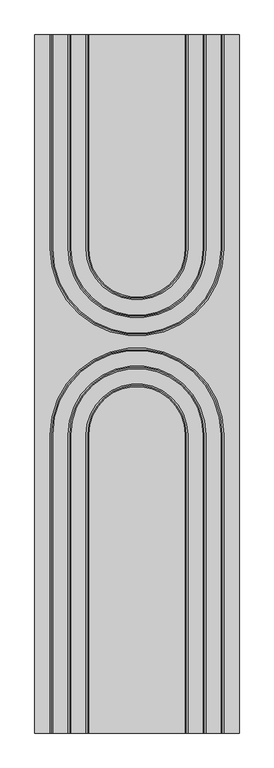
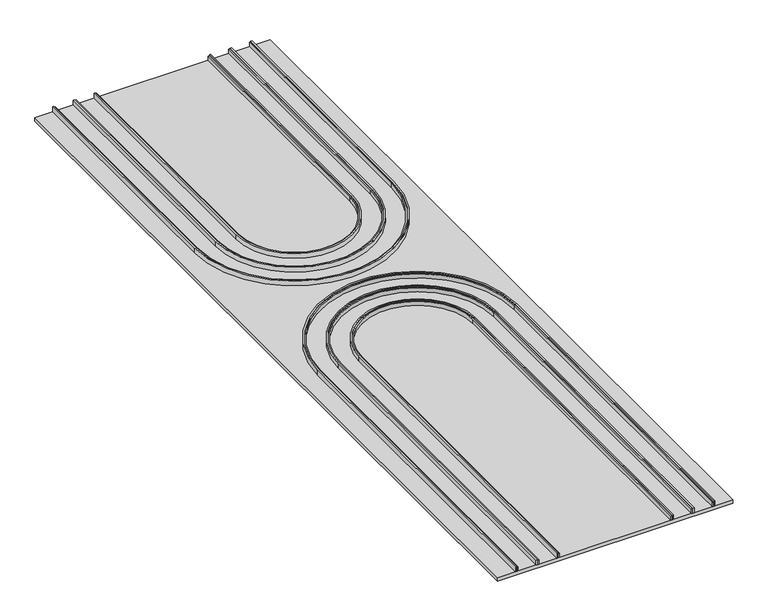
"""IFC4 building model written with IfcOpenShell, lengths in millimetres: proxy geometry, FilzFelt_Arcade : Arcade."""

from ifc_helpers import new_model, si_unit, point, frame, frame_2d, origin, origin_with_axes, place, context, project, spatial, polyline, circle_curve, trimmed, segment, composite_curve, outline, extrude, source, transform, mapped, element, save


def specialty_equipment_f70de239(model_context):
    return source(origin(), model_context, "Body", "SweptSolid", [
        extrude(outline(composite_curve([segment(trimmed(circle_curve(frame_2d((0.0, 1258.65)), 361.95), [point((361.95, 1258.65))], [point((-361.95, 1258.65))], True, "CARTESIAN"), True, "CONTINUOUS"), segment(polyline([(-361.95, 1258.65), (-361.95, 0.0), (-366.95, 0.0), (-366.95, 1258.65)]), True, "CONTINUOUS"), segment(trimmed(circle_curve(frame_2d((0.0, 1258.65)), 366.95), [point((-366.95, 1258.65))], [point((366.95, 1258.65))], False, "CARTESIAN"), True, "CONTINUOUS"), segment(polyline([(366.95, 1258.65), (366.95, 0.0), (361.95, 0.0), (361.95, 1258.65)]), True, "CONTINUOUS")], self_intersect=False)), frame((0.0, 0.0, 13.0), z_axis=(0.0, 0.0, 1.0), x_axis=(1.0, 0.0, 0.0)), (0.0, 0.0, 1.0), 19.0),
        extrude(outline(composite_curve([segment(trimmed(circle_curve(frame_2d((0.0, 1258.65)), 285.75), [point((285.75, 1258.65))], [point((-285.75, 1258.65))], True, "CARTESIAN"), True, "CONTINUOUS"), segment(polyline([(-285.75, 1258.65), (-285.75, 0.0), (-290.75, 0.0), (-290.75, 1258.65)]), True, "CONTINUOUS"), segment(trimmed(circle_curve(frame_2d((0.0, 1258.65)), 290.75), [point((-290.75, 1258.65))], [point((290.75, 1258.65))], False, "CARTESIAN"), True, "CONTINUOUS"), segment(polyline([(290.75, 1258.65), (290.75, 0.0), (285.75, 0.0), (285.75, 1258.65)]), True, "CONTINUOUS")], self_intersect=False)), frame((0.0, 0.0, 13.0), z_axis=(0.0, 0.0, 1.0), x_axis=(1.0, 0.0, 0.0)), (0.0, 0.0, 1.0), 19.0),
        extrude(outline(composite_curve([segment(polyline([(-209.55, 1258.65), (-209.55, 0.0), (-214.55, 0.0), (-214.55, 1258.65)]), True, "CONTINUOUS"), segment(trimmed(circle_curve(frame_2d((0.0, 1258.65)), 214.55), [point((-214.55, 1258.65))], [point((214.55, 1258.65))], False, "CARTESIAN"), True, "CONTINUOUS"), segment(polyline([(214.55, 1258.65), (214.55, 0.0), (209.55, 0.0), (209.55, 1258.65)]), True, "CONTINUOUS"), segment(trimmed(circle_curve(frame_2d((0.0, 1258.65)), 209.55), [point((209.55, 1258.65))], [point((-209.55, 1258.65))], True, "CARTESIAN"), True, "CONTINUOUS")], self_intersect=False)), frame((0.0, 0.0, 13.0), z_axis=(0.0, 0.0, 1.0), x_axis=(1.0, 0.0, 0.0)), (0.0, 0.0, 1.0), 19.0),
        extrude(outline(composite_curve([segment(polyline([(-366.95, 2043.35), (-366.95, 2946.4), (-361.95, 2946.4), (-361.95, 2043.35)]), True, "CONTINUOUS"), segment(trimmed(circle_curve(frame_2d((0.0, 2043.35)), 361.95), [point((-361.95, 2043.35))], [point((361.95, 2043.35))], True, "CARTESIAN"), True, "CONTINUOUS"), segment(polyline([(361.95, 2043.35), (361.95, 2946.4), (366.95, 2946.4), (366.95, 2043.35)]), True, "CONTINUOUS"), segment(trimmed(circle_curve(frame_2d((0.0, 2043.35)), 366.95), [point((366.95, 2043.35))], [point((-366.95, 2043.35))], False, "CARTESIAN"), True, "CONTINUOUS")], self_intersect=False)), frame((0.0, 0.0, 13.0), z_axis=(0.0, 0.0, 1.0), x_axis=(1.0, 0.0, 0.0)), (0.0, 0.0, 1.0), 19.0),
        extrude(outline(composite_curve([segment(polyline([(-290.75, 2043.35), (-290.75, 2946.4), (-285.75, 2946.4), (-285.75, 2043.35)]), True, "CONTINUOUS"), segment(trimmed(circle_curve(frame_2d((0.0, 2043.35)), 285.75), [point((-285.75, 2043.35))], [point((285.75, 2043.35))], True, "CARTESIAN"), True, "CONTINUOUS"), segment(polyline([(285.75, 2043.35), (285.75, 2946.4), (290.75, 2946.4), (290.75, 2043.35)]), True, "CONTINUOUS"), segment(trimmed(circle_curve(frame_2d((0.0, 2043.35)), 290.75), [point((290.75, 2043.35))], [point((-290.75, 2043.35))], False, "CARTESIAN"), True, "CONTINUOUS")], self_intersect=False)), frame((0.0, 0.0, 13.0), z_axis=(0.0, 0.0, 1.0), x_axis=(1.0, 0.0, 0.0)), (0.0, 0.0, 1.0), 19.0),
        extrude(outline(composite_curve([segment(polyline([(-214.55, 2043.35), (-214.55, 2946.4), (-209.55, 2946.4), (-209.55, 2043.35)]), True, "CONTINUOUS"), segment(trimmed(circle_curve(frame_2d((0.0, 2043.35)), 209.55), [point((-209.55, 2043.35))], [point((209.55, 2043.35))], True, "CARTESIAN"), True, "CONTINUOUS"), segment(polyline([(209.55, 2043.35), (209.55, 2946.4), (214.55, 2946.4), (214.55, 2043.35)]), True, "CONTINUOUS"), segment(trimmed(circle_curve(frame_2d((0.0, 2043.35)), 214.55), [point((214.55, 2043.35))], [point((-214.55, 2043.35))], False, "CARTESIAN"), True, "CONTINUOUS")], self_intersect=False)), frame((0.0, 0.0, 13.0), z_axis=(0.0, 0.0, 1.0), x_axis=(1.0, 0.0, 0.0)), (0.0, 0.0, 1.0), 19.0),
        extrude(outline(composite_curve([segment(trimmed(circle_curve(frame_2d((0.0, 1258.65)), 361.95), [point((-361.95, 1258.65))], [point((361.95, 1258.65))], False, "CARTESIAN"), True, "CONTINUOUS"), segment(polyline([(361.95, 1258.65), (361.95, 0.0), (356.95, 0.0), (356.95, 1258.65)]), True, "CONTINUOUS"), segment(trimmed(circle_curve(frame_2d((0.0, 1258.65)), 356.95), [point((356.95, 1258.65))], [point((-356.95, 1258.65))], True, "CARTESIAN"), True, "CONTINUOUS"), segment(polyline([(-356.95, 1258.65), (-356.95, 0.0), (-361.95, 0.0), (-361.95, 1258.65)]), True, "CONTINUOUS")], self_intersect=False)), frame((0.0, 0.0, 13.0), z_axis=(0.0, 0.0, 1.0), x_axis=(1.0, 0.0, 0.0)), (0.0, 0.0, 1.0), 16.0),
        extrude(outline(composite_curve([segment(trimmed(circle_curve(frame_2d((0.0, 1258.65)), 285.75), [point((-285.75, 1258.65))], [point((285.75, 1258.65))], False, "CARTESIAN"), True, "CONTINUOUS"), segment(polyline([(285.75, 1258.65), (285.75, 0.0), (280.75, 0.0), (280.75, 1258.65)]), True, "CONTINUOUS"), segment(trimmed(circle_curve(frame_2d((0.0, 1258.65)), 280.75), [point((280.75, 1258.65))], [point((-280.75, 1258.65))], True, "CARTESIAN"), True, "CONTINUOUS"), segment(polyline([(-280.75, 1258.65), (-280.75, 0.0), (-285.75, 0.0), (-285.75, 1258.65)]), True, "CONTINUOUS")], self_intersect=False)), frame((0.0, 0.0, 13.0), z_axis=(0.0, 0.0, 1.0), x_axis=(1.0, 0.0, 0.0)), (0.0, 0.0, 1.0), 16.0),
        extrude(outline(composite_curve([segment(trimmed(circle_curve(frame_2d((0.0, 1258.65)), 209.55), [point((-209.55, 1258.65))], [point((209.55, 1258.65))], False, "CARTESIAN"), True, "CONTINUOUS"), segment(polyline([(209.55, 1258.65), (209.55, 0.0), (204.55, 0.0), (204.55, 1258.65)]), True, "CONTINUOUS"), segment(trimmed(circle_curve(frame_2d((0.0, 1258.65)), 204.55), [point((204.55, 1258.65))], [point((-204.55, 1258.65))], True, "CARTESIAN"), True, "CONTINUOUS"), segment(polyline([(-204.55, 1258.65), (-204.55, 0.0), (-209.55, 0.0), (-209.55, 1258.65)]), True, "CONTINUOUS")], self_intersect=False)), frame((0.0, 0.0, 13.0), z_axis=(0.0, 0.0, 1.0), x_axis=(1.0, 0.0, 0.0)), (0.0, 0.0, 1.0), 16.0),
        extrude(outline(composite_curve([segment(trimmed(circle_curve(frame_2d((0.0, 2043.35)), 361.95), [point((361.95, 2043.35))], [point((-361.95, 2043.35))], False, "CARTESIAN"), True, "CONTINUOUS"), segment(polyline([(-361.95, 2043.35), (-361.95, 2946.4), (-356.95, 2946.4), (-356.95, 2043.35)]), True, "CONTINUOUS"), segment(trimmed(circle_curve(frame_2d((0.0, 2043.35)), 356.95), [point((-356.95, 2043.35))], [point((356.95, 2043.35))], True, "CARTESIAN"), True, "CONTINUOUS"), segment(polyline([(356.95, 2043.35), (356.95, 2946.4), (361.95, 2946.4), (361.95, 2043.35)]), True, "CONTINUOUS")], self_intersect=False)), frame((0.0, 0.0, 13.0), z_axis=(0.0, 0.0, 1.0), x_axis=(1.0, 0.0, 0.0)), (0.0, 0.0, 1.0), 16.0),
        extrude(outline(composite_curve([segment(trimmed(circle_curve(frame_2d((0.0, 2043.35)), 285.75), [point((285.75, 2043.35))], [point((-285.75, 2043.35))], False, "CARTESIAN"), True, "CONTINUOUS"), segment(polyline([(-285.75, 2043.35), (-285.75, 2946.4), (-280.75, 2946.4), (-280.75, 2043.35)]), True, "CONTINUOUS"), segment(trimmed(circle_curve(frame_2d((0.0, 2043.35)), 280.75), [point((-280.75, 2043.35))], [point((280.75, 2043.35))], True, "CARTESIAN"), True, "CONTINUOUS"), segment(polyline([(280.75, 2043.35), (280.75, 2946.4), (285.75, 2946.4), (285.75, 2043.35)]), True, "CONTINUOUS")], self_intersect=False)), frame((0.0, 0.0, 13.0), z_axis=(0.0, 0.0, 1.0), x_axis=(1.0, 0.0, 0.0)), (0.0, 0.0, 1.0), 16.0),
        extrude(outline(composite_curve([segment(trimmed(circle_curve(frame_2d((0.0, 2043.35)), 209.55), [point((209.55, 2043.35))], [point((-209.55, 2043.35))], False, "CARTESIAN"), True, "CONTINUOUS"), segment(polyline([(-209.55, 2043.35), (-209.55, 2946.4), (-204.55, 2946.4), (-204.55, 2043.35)]), True, "CONTINUOUS"), segment(trimmed(circle_curve(frame_2d((0.0, 2043.35)), 204.55), [point((-204.55, 2043.35))], [point((204.55, 2043.35))], True, "CARTESIAN"), True, "CONTINUOUS"), segment(polyline([(204.55, 2043.35), (204.55, 2946.4), (209.55, 2946.4), (209.55, 2043.35)]), True, "CONTINUOUS")], self_intersect=False)), frame((0.0, 0.0, 13.0), z_axis=(0.0, 0.0, 1.0), x_axis=(1.0, 0.0, 0.0)), (0.0, 0.0, 1.0), 16.0),
        extrude(outline(polyline([(-431.8, 0.0), (-431.8, 2946.4), (431.8, 2946.4), (431.8, 0.0), (-431.8, 0.0)])), origin_with_axes(), (0.0, 0.0, 1.0), 13.0),
    ])


if __name__ == "__main__":
    model = new_model("IFC4")
    model_context = context("Model", 3, world=origin())
    ifc_project = project(units=[si_unit("LENGTHUNIT", "METRE", prefix="MILLI")], contexts=[model_context])
    site = spatial("IfcSite", under=ifc_project)
    building = spatial("IfcBuilding", under=site)
    placement = place(None, origin())
    specialty_equipment_shape = specialty_equipment_f70de239(model_context)
    element("IfcBuildingElementProxy", 1, Name="FilzFelt_Arcade : Arcade", ObjectType="FilzFelt_Arcade : Arcade", at=placement, inside=building, context=model_context, shape_type="MappedRepresentation", body=[
        mapped(specialty_equipment_shape, transform((0.0, 0.0, 0.0), x_axis=(1.0, 0.0, 0.0), y_axis=(0.0, 1.0, 0.0), z_axis=(0.0, 0.0, 1.0))),
    ])
    save(model, "model.ifc")
